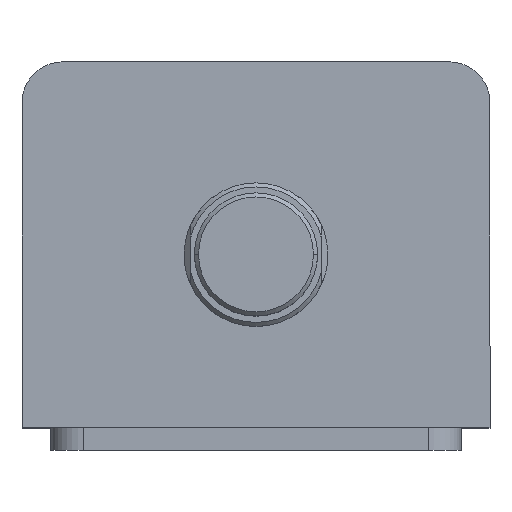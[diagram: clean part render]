
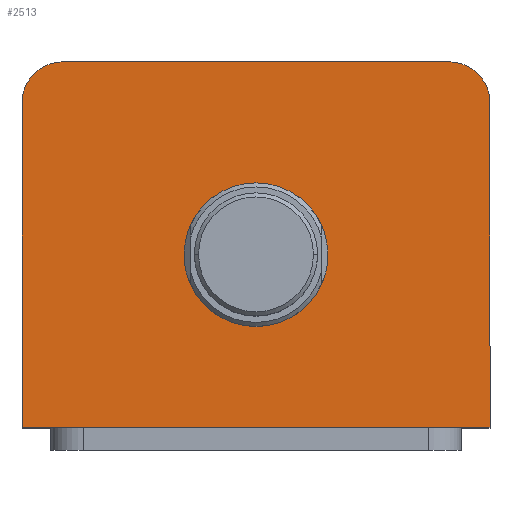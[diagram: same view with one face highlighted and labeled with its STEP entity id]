
A CAD part, top view. The second image highlights one B-rep face of the part: STEP entity #2513.
In plain terms, the highlighted planar face has unit normal (0, 0, 1).
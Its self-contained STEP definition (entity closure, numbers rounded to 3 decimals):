
#23 = CARTESIAN_POINT ( 'NONE',  ( 0., -2.5, 177. ) ) ;
#24 = DIRECTION ( 'NONE',  ( 0., 0., 1. ) ) ;
#25 = DIRECTION ( 'NONE',  ( 1., 0., 0. ) ) ;
#26 = CARTESIAN_POINT ( 'NONE',  ( 0., -2.5, 177. ) ) ;
#27 = DIRECTION ( 'NONE',  ( 0., 0., 1. ) ) ;
#28 = DIRECTION ( 'NONE',  ( 1., 0., 0. ) ) ;
#37 = CARTESIAN_POINT ( 'NONE',  ( -57., -44.5, 177. ) ) ;
#47 = DIRECTION ( 'NONE',  ( 1., 0., 0. ) ) ;
#75 = CARTESIAN_POINT ( 'NONE',  ( 57., 44.5, 177. ) ) ;
#76 = DIRECTION ( 'NONE',  ( 0., 1., 0. ) ) ;
#109 = CARTESIAN_POINT ( 'NONE',  ( -57., 44.5, 177. ) ) ;
#110 = DIRECTION ( 'NONE',  ( -1., 0., 0. ) ) ;
#252 = VERTEX_POINT ( 'NONE', #2482 ) ;
#256 = VERTEX_POINT ( 'NONE', #2486 ) ;
#302 = FACE_OUTER_BOUND ( 'NONE', #1854, .T. ) ;
#312 = FACE_BOUND ( 'NONE', #1849, .T. ) ;
#626 = CARTESIAN_POINT ( 'NONE',  ( 0., 0., 177. ) ) ;
#629 = PLANE ( 'NONE',  #3188 ) ;
#631 = DIRECTION ( 'NONE',  ( 0., 0., 1. ) ) ;
#632 = DIRECTION ( 'NONE',  ( 1., 0., 0. ) ) ;
#662 = CARTESIAN_POINT ( 'NONE',  ( -47., 34.5, 177. ) ) ;
#663 = DIRECTION ( 'NONE',  ( 0., 0., 1. ) ) ;
#664 = DIRECTION ( 'NONE',  ( 1., 0., 0. ) ) ;
#679 = CARTESIAN_POINT ( 'NONE',  ( -57., 44.5, 177. ) ) ;
#680 = DIRECTION ( 'NONE',  ( 0., -1., 0. ) ) ;
#722 = CARTESIAN_POINT ( 'NONE',  ( 47., 34.5, 177. ) ) ;
#723 = DIRECTION ( 'NONE',  ( 0., 0., 1. ) ) ;
#724 = DIRECTION ( 'NONE',  ( 1., 0., 0. ) ) ;
#850 = CARTESIAN_POINT ( 'NONE',  ( -57., -44.5, 177. ) ) ;
#857 = CARTESIAN_POINT ( 'NONE',  ( 57., 34.5, 177. ) ) ;
#979 = CARTESIAN_POINT ( 'NONE',  ( 57., -44.5, 177. ) ) ;
#990 = CARTESIAN_POINT ( 'NONE',  ( -17.5, -2.5, 177. ) ) ;
#1011 = CARTESIAN_POINT ( 'NONE',  ( -57., 34.5, 177. ) ) ;
#1018 = CARTESIAN_POINT ( 'NONE',  ( 17.5, -2.5, 177. ) ) ;
#1506 = VERTEX_POINT ( 'NONE', #979 ) ;
#1517 = VERTEX_POINT ( 'NONE', #990 ) ;
#1539 = VERTEX_POINT ( 'NONE', #1011 ) ;
#1588 = CIRCLE ( 'NONE', #3632, 10. ) ;
#1849 = EDGE_LOOP ( 'NONE', ( #2070, #2071 ) ) ;
#1854 = EDGE_LOOP ( 'NONE', ( #2072, #2073, #2074, #2075, #2076, #2077 ) ) ;
#1873 = VERTEX_POINT ( 'NONE', #1018 ) ;
#1874 = VERTEX_POINT ( 'NONE', #850 ) ;
#1882 = VERTEX_POINT ( 'NONE', #857 ) ;
#2070 = ORIENTED_EDGE ( 'NONE', *, *, #3356, .F. ) ;
#2071 = ORIENTED_EDGE ( 'NONE', *, *, #3354, .F. ) ;
#2072 = ORIENTED_EDGE ( 'NONE', *, *, #3393, .T. ) ;
#2073 = ORIENTED_EDGE ( 'NONE', *, *, #3405, .T. ) ;
#2074 = ORIENTED_EDGE ( 'NONE', *, *, #3411, .T. ) ;
#2075 = ORIENTED_EDGE ( 'NONE', *, *, #3363, .T. ) ;
#2076 = ORIENTED_EDGE ( 'NONE', *, *, #3378, .T. ) ;
#2077 = ORIENTED_EDGE ( 'NONE', *, *, #3430, .T. ) ;
#2482 = CARTESIAN_POINT ( 'NONE',  ( -47., 44.5, 177. ) ) ;
#2486 = CARTESIAN_POINT ( 'NONE',  ( 47., 44.5, 177. ) ) ;
#2513 = ADVANCED_FACE ( 'NONE', ( #312, #302 ), #629, .T. ) ;
#3051 = CIRCLE ( 'NONE', #3660, 17.5 ) ;
#3054 = CIRCLE ( 'NONE', #3659, 17.5 ) ;
#3060 = LINE ( 'NONE', #37, #3067 ) ;
#3067 = VECTOR ( 'NONE', #47, 1000. ) ;
#3094 = LINE ( 'NONE', #75, #3097 ) ;
#3097 = VECTOR ( 'NONE', #76, 1000. ) ;
#3121 = LINE ( 'NONE', #109, #3124 ) ;
#3124 = VECTOR ( 'NONE', #110, 1000. ) ;
#3132 = CIRCLE ( 'NONE', #3644, 10. ) ;
#3148 = LINE ( 'NONE', #679, #3151 ) ;
#3151 = VECTOR ( 'NONE', #680, 1000. ) ;
#3188 = AXIS2_PLACEMENT_3D ( 'NONE', #626, #631, #632 ) ;
#3354 = EDGE_CURVE ( 'NONE', #1517, #1873, #3051, .T. ) ;
#3356 = EDGE_CURVE ( 'NONE', #1873, #1517, #3054, .T. ) ;
#3363 = EDGE_CURVE ( 'NONE', #1874, #1506, #3060, .T. ) ;
#3378 = EDGE_CURVE ( 'NONE', #1506, #1882, #3094, .T. ) ;
#3393 = EDGE_CURVE ( 'NONE', #256, #252, #3121, .T. ) ;
#3405 = EDGE_CURVE ( 'NONE', #252, #1539, #3132, .T. ) ;
#3411 = EDGE_CURVE ( 'NONE', #1539, #1874, #3148, .T. ) ;
#3430 = EDGE_CURVE ( 'NONE', #1882, #256, #1588, .T. ) ;
#3632 = AXIS2_PLACEMENT_3D ( 'NONE', #722, #723, #724 ) ;
#3644 = AXIS2_PLACEMENT_3D ( 'NONE', #662, #663, #664 ) ;
#3659 = AXIS2_PLACEMENT_3D ( 'NONE', #26, #27, #28 ) ;
#3660 = AXIS2_PLACEMENT_3D ( 'NONE', #23, #24, #25 ) ;
